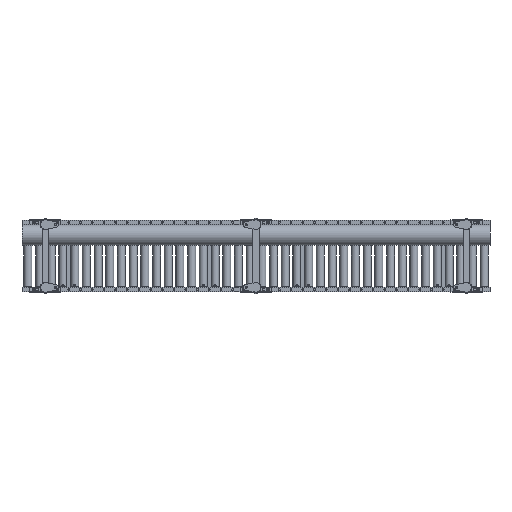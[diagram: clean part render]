
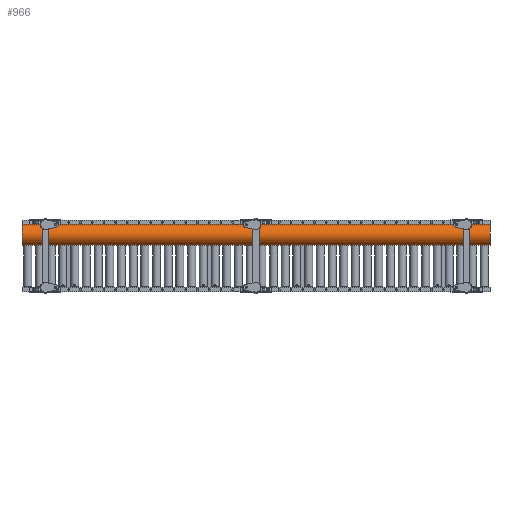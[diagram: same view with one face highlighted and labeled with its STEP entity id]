
A CAD part, front view. The second image highlights one B-rep face of the part: STEP entity #966.
In plain terms, the highlighted cylindrical face has radius 66.89 mm (diameter 133.78 mm), a partial arc.
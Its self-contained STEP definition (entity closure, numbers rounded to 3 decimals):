
#646 = DIRECTION ( 'NONE',  ( -1., 0., 0. ) ) ;
#966 = ADVANCED_FACE ( 'NONE', ( #38112 ), #1123, .T. ) ;
#1123 = CYLINDRICAL_SURFACE ( 'NONE', #111609, 66.89 ) ;
#3297 = EDGE_CURVE ( 'NONE', #127018, #154782, #113454, .T. ) ;
#3879 = CARTESIAN_POINT ( 'NONE',  ( -3177.652, -150., 135.11 ) ) ;
#5786 = DIRECTION ( 'NONE',  ( 0., 0., -1. ) ) ;
#7027 = LINE ( 'NONE', #155607, #66970 ) ;
#9469 = ORIENTED_EDGE ( 'NONE', *, *, #3297, .T. ) ;
#9531 = VERTEX_POINT ( 'NONE', #126820 ) ;
#16092 = DIRECTION ( 'NONE',  ( 1., 0., 0. ) ) ;
#20663 = AXIS2_PLACEMENT_3D ( 'NONE', #178561, #646, #30171 ) ;
#30171 = DIRECTION ( 'NONE',  ( 0., 0., -1. ) ) ;
#31047 = DIRECTION ( 'NONE',  ( 1., 0., 0. ) ) ;
#38112 = FACE_OUTER_BOUND ( 'NONE', #158704, .T. ) ;
#45348 = DIRECTION ( 'NONE',  ( 0., 0., 1. ) ) ;
#64058 = EDGE_CURVE ( 'NONE', #127018, #186784, #164136, .T. ) ;
#66970 = VECTOR ( 'NONE', #125992, 1000. ) ;
#74143 = VECTOR ( 'NONE', #31047, 1000. ) ;
#81152 = CARTESIAN_POINT ( 'NONE',  ( 0., -150., 68.22 ) ) ;
#95932 = AXIS2_PLACEMENT_3D ( 'NONE', #133778, #176842, #45348 ) ;
#97811 = CARTESIAN_POINT ( 'NONE',  ( -3000., -150., 68.22 ) ) ;
#107546 = CARTESIAN_POINT ( 'NONE',  ( -3000., -150., 202. ) ) ;
#111548 = CIRCLE ( 'NONE', #95932, 66.89 ) ;
#111609 = AXIS2_PLACEMENT_3D ( 'NONE', #3879, #16092, #5786 ) ;
#113454 = LINE ( 'NONE', #151699, #74143 ) ;
#117349 = ORIENTED_EDGE ( 'NONE', *, *, #123384, .F. ) ;
#123384 = EDGE_CURVE ( 'NONE', #9531, #154782, #111548, .T. ) ;
#125992 = DIRECTION ( 'NONE',  ( 1., 0., 0. ) ) ;
#126820 = CARTESIAN_POINT ( 'NONE',  ( 0., -150., 202. ) ) ;
#127018 = VERTEX_POINT ( 'NONE', #97811 ) ;
#133778 = CARTESIAN_POINT ( 'NONE',  ( 0., -150., 135.11 ) ) ;
#151699 = CARTESIAN_POINT ( 'NONE',  ( -3177.652, -150., 68.22 ) ) ;
#153137 = ORIENTED_EDGE ( 'NONE', *, *, #189053, .F. ) ;
#154782 = VERTEX_POINT ( 'NONE', #81152 ) ;
#155607 = CARTESIAN_POINT ( 'NONE',  ( -3177.652, -150., 202. ) ) ;
#156163 = ORIENTED_EDGE ( 'NONE', *, *, #64058, .F. ) ;
#158704 = EDGE_LOOP ( 'NONE', ( #156163, #9469, #117349, #153137 ) ) ;
#164136 = CIRCLE ( 'NONE', #20663, 66.89 ) ;
#176842 = DIRECTION ( 'NONE',  ( 1., 0., 0. ) ) ;
#178561 = CARTESIAN_POINT ( 'NONE',  ( -3000., -150., 135.11 ) ) ;
#186784 = VERTEX_POINT ( 'NONE', #107546 ) ;
#189053 = EDGE_CURVE ( 'NONE', #186784, #9531, #7027, .T. ) ;
